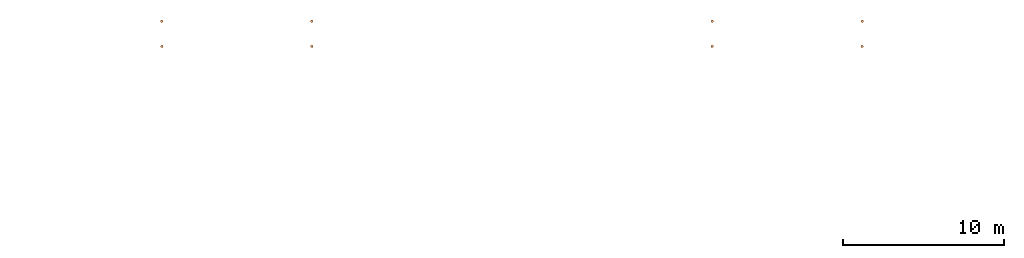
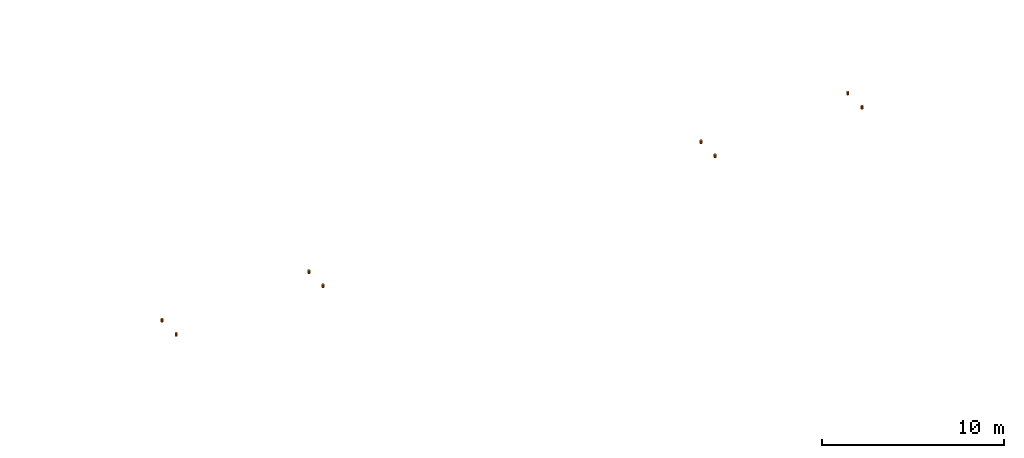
# One storey, part 1 of 3: 8 proxies.
"""IFC2X3 building model written with IfcOpenShell, lengths in centimetres."""

from ifc_helpers import new_model, entity, si_unit, converted_unit, derived_unit, direction, frame, origin, origin_2d_with_axis, place, context, subcontext, project, spatial, circle, extrude, source, transform, mapped, material, type_object, type_shapes, element, save


model = new_model("IFC2X3")

# Units and contexts
model_context = context("Model", 3, precision=0.001, world=origin(), true_north=direction((6.12303176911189e-17, 1.0)))
body_context = subcontext(model_context, "Body", "Model", "MODEL_VIEW")
ifc_project = project(units=[si_unit("LENGTHUNIT", "METRE", prefix="CENTI"), si_unit("AREAUNIT", "SQUARE_METRE"), si_unit("VOLUMEUNIT", "CUBIC_METRE"), converted_unit("PLANEANGLEUNIT", "DEGREE", entity("IfcRatioMeasure", 0.0174532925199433), si_unit("PLANEANGLEUNIT", "RADIAN"), dimensions=[0, 0, 0, 0, 0, 0, 0]), si_unit("MASSUNIT", "GRAM", prefix="KILO"), derived_unit("MASSDENSITYUNIT", [(si_unit("MASSUNIT", "GRAM", prefix="KILO"), 1), (si_unit("LENGTHUNIT", "METRE"), -3)]), si_unit("TIMEUNIT", "SECOND"), si_unit("FREQUENCYUNIT", "HERTZ"), si_unit("THERMODYNAMICTEMPERATUREUNIT", "DEGREE_CELSIUS"), derived_unit("THERMALTRANSMITTANCEUNIT", [(si_unit("MASSUNIT", "GRAM", prefix="KILO"), 1), (si_unit("THERMODYNAMICTEMPERATUREUNIT", "KELVIN"), -1), (si_unit("TIMEUNIT", "SECOND"), -3)]), derived_unit("VOLUMETRICFLOWRATEUNIT", [(si_unit("LENGTHUNIT", "METRE"), 3), (si_unit("TIMEUNIT", "SECOND"), -1)]), si_unit("ELECTRICCURRENTUNIT", "AMPERE"), si_unit("ELECTRICVOLTAGEUNIT", "VOLT"), si_unit("POWERUNIT", "WATT"), si_unit("FORCEUNIT", "NEWTON"), si_unit("ILLUMINANCEUNIT", "LUX"), si_unit("LUMINOUSFLUXUNIT", "LUMEN"), si_unit("LUMINOUSINTENSITYUNIT", "CANDELA"), derived_unit("USERDEFINED", [(si_unit("MASSUNIT", "GRAM", prefix="KILO"), -1), (si_unit("LENGTHUNIT", "METRE"), -2), (si_unit("TIMEUNIT", "SECOND"), 3), (si_unit("LUMINOUSFLUXUNIT", "LUMEN"), 1)]), derived_unit("LINEARVELOCITYUNIT", [(si_unit("LENGTHUNIT", "METRE"), 1), (si_unit("TIMEUNIT", "SECOND"), -1)]), si_unit("PRESSUREUNIT", "PASCAL"), derived_unit("USERDEFINED", [(si_unit("LENGTHUNIT", "METRE"), -2), (si_unit("MASSUNIT", "GRAM", prefix="KILO"), 1), (si_unit("TIMEUNIT", "SECOND"), -2)])], contexts=[model_context])

# Site, building, storey
site_placement = place(None, origin())
site = spatial("IfcSite", under=ifc_project, at=site_placement, Name="Default", CompositionType="ELEMENT")
building_placement = place(site_placement, origin())
building = spatial("IfcBuilding", under=site, at=building_placement, Name="CAGE 03", CompositionType="ELEMENT")
storey_placement = place(building_placement, frame((0.0, 0.0, 675.0)))
storey = spatial("IfcBuildingStorey", under=building, at=storey_placement, Name="Ac R+2", CompositionType="ELEMENT", Elevation=675.0)

# Proxies
ifc_material = material(Name="BBGO_Résa")
building_element_proxy_type_1 = type_object("IfcBuildingElementProxyType", Name="Ø160", PredefinedType="NOTDEFINED", material=ifc_material)
shared_shape_1 = source(origin(), body_context, "Body", "SweptSolid", [
    extrude(circle(Radius=8.0, at=origin_2d_with_axis()), frame((9253.36582014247, 4657.66066607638, 860.0), z_axis=(0.0, 0.0, 1.0), x_axis=(-1.0, 0.0, 0.0)), (0.0, 0.0, 1.0), 20.0),
])
type_shapes(building_element_proxy_type_1, [shared_shape_1])
proxy_1_placement = place(storey_placement, frame((0.0, 0.0, -675.0)))
element("IfcBuildingElementProxy", 1, at=proxy_1_placement, inside=storey, type_object=building_element_proxy_type_1, material=ifc_material, Name="BBGO-Résa circ dalle:Ø160", ObjectType="Ø160", context=body_context, shape_type="MappedRepresentation", body=[
    mapped(shared_shape_1, transform((0.0, 0.0, 0.0), scale=1.0)),
])
building_element_proxy_type_2 = type_object("IfcBuildingElementProxyType", Name="Ø160", PredefinedType="NOTDEFINED", material=ifc_material)
shared_shape_2 = source(origin(), body_context, "Body", "SweptSolid", [
    extrude(circle(Radius=8.0, at=origin_2d_with_axis()), frame((9253.36582014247, 4501.66066607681, 860.0), z_axis=(0.0, 0.0, 1.0), x_axis=(-1.0, 0.0, 0.0)), (0.0, 0.0, 1.0), 20.0),
])
type_shapes(building_element_proxy_type_2, [shared_shape_2])
proxy_2_placement = place(storey_placement, frame((0.0, 0.0, -675.0)))
element("IfcBuildingElementProxy", 2, at=proxy_2_placement, inside=storey, type_object=building_element_proxy_type_2, material=ifc_material, Name="BBGO-Résa circ dalle:Ø160", ObjectType="Ø160", context=body_context, shape_type="MappedRepresentation", body=[
    mapped(shared_shape_2, transform((0.0, 0.0, 0.0), scale=1.0)),
])
building_element_proxy_type_3 = type_object("IfcBuildingElementProxyType", Name="Ø160", PredefinedType="NOTDEFINED", material=ifc_material)
shared_shape_3 = source(origin(), body_context, "Body", "SweptSolid", [
    extrude(circle(Radius=8.0, at=origin_2d_with_axis()), frame((8323.36582014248, 4657.66066607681, 860.0)), (0.0, 0.0, 1.0), 20.0),
])
type_shapes(building_element_proxy_type_3, [shared_shape_3])
proxy_3_placement = place(storey_placement, frame((0.0, 0.0, -675.0)))
element("IfcBuildingElementProxy", 3, at=proxy_3_placement, inside=storey, type_object=building_element_proxy_type_3, material=ifc_material, Name="BBGO-Résa circ dalle:Ø160", ObjectType="Ø160", context=body_context, shape_type="MappedRepresentation", body=[
    mapped(shared_shape_3, transform((0.0, 0.0, 0.0), scale=1.0)),
])
building_element_proxy_type_4 = type_object("IfcBuildingElementProxyType", Name="Ø160", PredefinedType="NOTDEFINED", material=ifc_material)
shared_shape_4 = source(origin(), body_context, "Body", "SweptSolid", [
    extrude(circle(Radius=8.0, at=origin_2d_with_axis()), frame((8323.36582014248, 4501.66066607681, 860.0)), (0.0, 0.0, 1.0), 20.0),
])
type_shapes(building_element_proxy_type_4, [shared_shape_4])
proxy_4_placement = place(storey_placement, frame((0.0, 0.0, -675.0)))
element("IfcBuildingElementProxy", 4, at=proxy_4_placement, inside=storey, type_object=building_element_proxy_type_4, material=ifc_material, Name="BBGO-Résa circ dalle:Ø160", ObjectType="Ø160", context=body_context, shape_type="MappedRepresentation", body=[
    mapped(shared_shape_4, transform((0.0, 0.0, 0.0), scale=1.0)),
])
building_element_proxy_type_5 = type_object("IfcBuildingElementProxyType", Name="Ø160", PredefinedType="NOTDEFINED", material=ifc_material)
shared_shape_5 = source(origin(), body_context, "Body", "SweptSolid", [
    extrude(circle(Radius=8.0, at=origin_2d_with_axis()), frame((5839.36582014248, 4657.66066607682, 860.0), z_axis=(0.0, 0.0, 1.0), x_axis=(-1.0, 0.0, 0.0)), (0.0, 0.0, 1.0), 20.0),
])
type_shapes(building_element_proxy_type_5, [shared_shape_5])
proxy_5_placement = place(storey_placement, frame((0.0, 0.0, -675.0)))
element("IfcBuildingElementProxy", 5, at=proxy_5_placement, inside=storey, type_object=building_element_proxy_type_5, material=ifc_material, Name="BBGO-Résa circ dalle:Ø160", ObjectType="Ø160", context=body_context, shape_type="MappedRepresentation", body=[
    mapped(shared_shape_5, transform((0.0, 0.0, 0.0), scale=1.0)),
])
building_element_proxy_type_6 = type_object("IfcBuildingElementProxyType", Name="Ø160", PredefinedType="NOTDEFINED", material=ifc_material)
shared_shape_6 = source(origin(), body_context, "Body", "SweptSolid", [
    extrude(circle(Radius=8.0, at=origin_2d_with_axis()), frame((5839.36582014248, 4501.66066607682, 860.0), z_axis=(0.0, 0.0, 1.0), x_axis=(-1.0, 0.0, 0.0)), (0.0, 0.0, 1.0), 20.0),
])
type_shapes(building_element_proxy_type_6, [shared_shape_6])
proxy_6_placement = place(storey_placement, frame((0.0, 0.0, -675.0)))
element("IfcBuildingElementProxy", 6, at=proxy_6_placement, inside=storey, type_object=building_element_proxy_type_6, material=ifc_material, Name="BBGO-Résa circ dalle:Ø160", ObjectType="Ø160", context=body_context, shape_type="MappedRepresentation", body=[
    mapped(shared_shape_6, transform((0.0, 0.0, 0.0), scale=1.0)),
])
building_element_proxy_type_7 = type_object("IfcBuildingElementProxyType", Name="Ø160", PredefinedType="NOTDEFINED", material=ifc_material)
shared_shape_7 = source(origin(), body_context, "Body", "SweptSolid", [
    extrude(circle(Radius=8.0, at=origin_2d_with_axis()), frame((4909.36582014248, 4657.66066607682, 860.0)), (0.0, 0.0, 1.0), 20.0),
])
type_shapes(building_element_proxy_type_7, [shared_shape_7])
proxy_7_placement = place(storey_placement, frame((0.0, 0.0, -675.0)))
element("IfcBuildingElementProxy", 7, at=proxy_7_placement, inside=storey, type_object=building_element_proxy_type_7, material=ifc_material, Name="BBGO-Résa circ dalle:Ø160", ObjectType="Ø160", context=body_context, shape_type="MappedRepresentation", body=[
    mapped(shared_shape_7, transform((0.0, 0.0, 0.0), scale=1.0)),
])
building_element_proxy_type_8 = type_object("IfcBuildingElementProxyType", Name="Ø160", PredefinedType="NOTDEFINED", material=ifc_material)
shared_shape_8 = source(origin(), body_context, "Body", "SweptSolid", [
    extrude(circle(Radius=8.0, at=origin_2d_with_axis()), frame((4909.36582014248, 4501.66066607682, 860.0)), (0.0, 0.0, 1.0), 20.0),
])
type_shapes(building_element_proxy_type_8, [shared_shape_8])
proxy_8_placement = place(storey_placement, frame((0.0, 0.0, -675.0)))
element("IfcBuildingElementProxy", 8, at=proxy_8_placement, inside=storey, type_object=building_element_proxy_type_8, material=ifc_material, Name="BBGO-Résa circ dalle:Ø160", ObjectType="Ø160", context=body_context, shape_type="MappedRepresentation", body=[
    mapped(shared_shape_8, transform((0.0, 0.0, 0.0), scale=1.0)),
])

save(model, "model.ifc")
